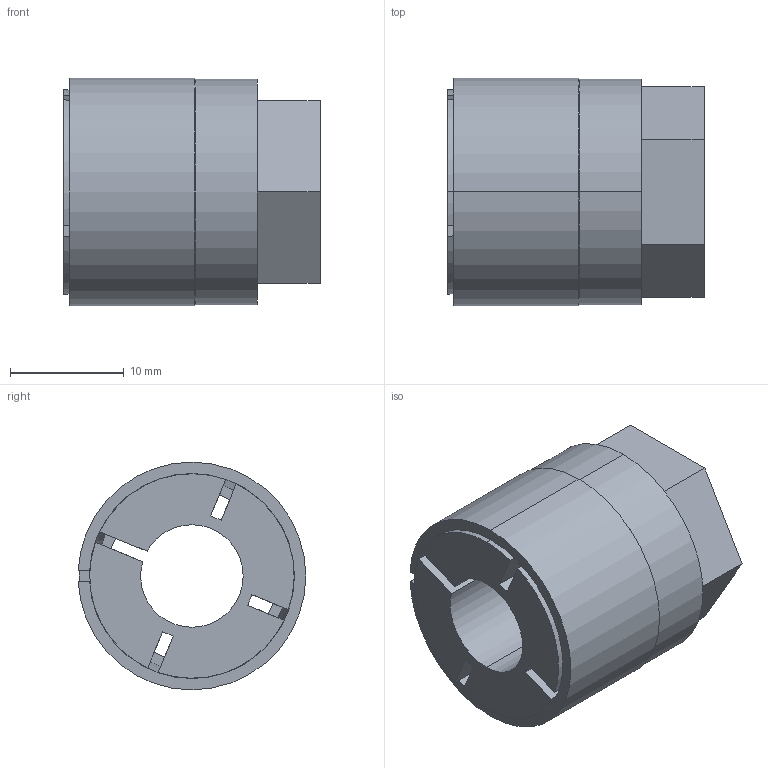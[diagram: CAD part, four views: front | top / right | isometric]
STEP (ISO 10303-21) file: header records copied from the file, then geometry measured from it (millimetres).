
FILE_DESCRIPTION (( 'STEP AP203' ), '1' );
FILE_NAME ('KBS 56 - 9 x 20.STEP', '2015-07-07T20:19:56', ( '' ), ( '' ), 'SwSTEP 2.0', 'SolidWorks 2010', '' );
FILE_SCHEMA (( 'CONFIG_CONTROL_DESIGN' ));
Length unit declared in the file: millimetre
Products named in the file (1): KBS 56 - 9 x 20
Bounding box: 22.5 x 19.99 x 20 mm (x, y, z)
Volume: 4707.7 mm3; surface area: 5396 mm2
Topology: 3 solids, 3 shells, 53 faces, 138 edges, 92 vertices
Faces by surface type: plane 30, cylinder 15, cone 8
Entity records: 1731 total; most frequent: CARTESIAN_POINT 320, DIRECTION 282, ORIENTED_EDGE 276, EDGE_CURVE 138, AXIS2_PLACEMENT_3D 100, VERTEX_POINT 92, LINE 82, VECTOR 82
